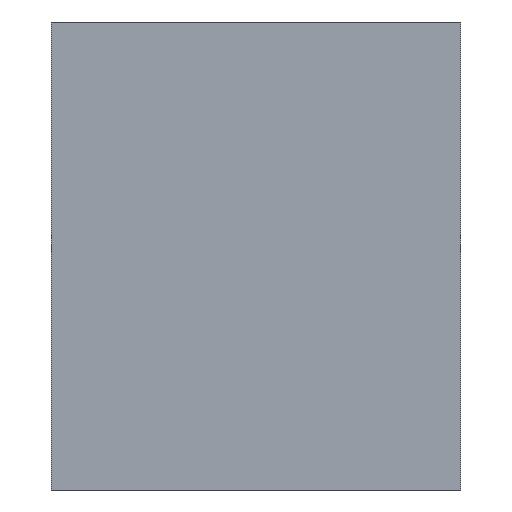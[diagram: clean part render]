
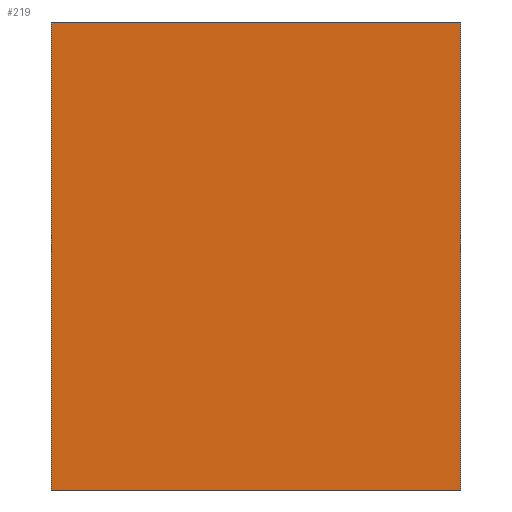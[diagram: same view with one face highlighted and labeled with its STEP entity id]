
A CAD part, left-side view. The second image highlights one B-rep face of the part: STEP entity #219.
In plain terms, the highlighted planar face has unit normal (-1, 0, 0).
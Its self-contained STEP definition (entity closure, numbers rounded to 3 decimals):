
#153 = VERTEX_POINT ( 'NONE', #521 ) ;
#157 = VERTEX_POINT ( 'NONE', #516 ) ;
#159 = EDGE_CURVE ( 'NONE', #153, #157, #515, .T. ) ;
#164 = EDGE_CURVE ( 'NONE', #165, #153, #505, .T. ) ;
#165 = VERTEX_POINT ( 'NONE', #501 ) ;
#184 = VERTEX_POINT ( 'NONE', #538 ) ;
#186 = EDGE_CURVE ( 'NONE', #157, #184, #537, .T. ) ;
#219 = ADVANCED_FACE ( 'NONE', ( #575 ), #574, .T. ) ;
#220 = EDGE_LOOP ( 'NONE', ( #221, #222, #223, #224 ) ) ;
#221 = ORIENTED_EDGE ( 'NONE', *, *, #164, .T. ) ;
#222 = ORIENTED_EDGE ( 'NONE', *, *, #159, .T. ) ;
#223 = ORIENTED_EDGE ( 'NONE', *, *, #186, .T. ) ;
#224 = ORIENTED_EDGE ( 'NONE', *, *, #225, .F. ) ;
#225 = EDGE_CURVE ( 'NONE', #165, #184, #569, .T. ) ;
#501 = CARTESIAN_POINT ( 'NONE',  ( -16.03, 14., 0. ) ) ;
#502 = DIRECTION ( 'NONE',  ( 0., -1., 0. ) ) ;
#503 = VECTOR ( 'NONE', #502, 1000. ) ;
#504 = CARTESIAN_POINT ( 'NONE',  ( -16.03, 0., 0. ) ) ;
#505 = LINE ( 'NONE', #504, #503 ) ;
#512 = DIRECTION ( 'NONE',  ( 0., 0., 1. ) ) ;
#513 = VECTOR ( 'NONE', #512, 1000. ) ;
#514 = CARTESIAN_POINT ( 'NONE',  ( -16.03, 0., 0. ) ) ;
#515 = LINE ( 'NONE', #514, #513 ) ;
#516 = CARTESIAN_POINT ( 'NONE',  ( -16.03, 0., 16. ) ) ;
#521 = CARTESIAN_POINT ( 'NONE',  ( -16.03, 0., 0. ) ) ;
#534 = DIRECTION ( 'NONE',  ( 0., 1., 0. ) ) ;
#535 = VECTOR ( 'NONE', #534, 1000. ) ;
#536 = CARTESIAN_POINT ( 'NONE',  ( -16.03, 0., 16. ) ) ;
#537 = LINE ( 'NONE', #536, #535 ) ;
#538 = CARTESIAN_POINT ( 'NONE',  ( -16.03, 14., 16. ) ) ;
#566 = DIRECTION ( 'NONE',  ( 0., 0., 1. ) ) ;
#567 = VECTOR ( 'NONE', #566, 1000. ) ;
#568 = CARTESIAN_POINT ( 'NONE',  ( -16.03, 14., 0. ) ) ;
#569 = LINE ( 'NONE', #568, #567 ) ;
#570 = DIRECTION ( 'NONE',  ( 0., 0., 1. ) ) ;
#571 = DIRECTION ( 'NONE',  ( -1., 0., 0. ) ) ;
#572 = CARTESIAN_POINT ( 'NONE',  ( -16.03, 0., 0. ) ) ;
#573 = AXIS2_PLACEMENT_3D ( 'NONE', #572, #571, #570 ) ;
#574 = PLANE ( 'NONE',  #573 ) ;
#575 = FACE_OUTER_BOUND ( 'NONE', #220, .T. ) ;
